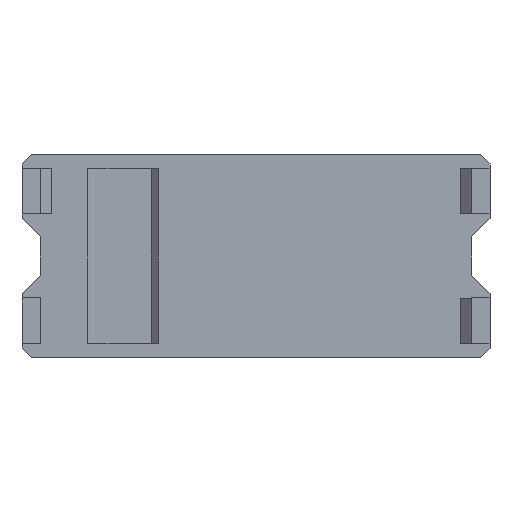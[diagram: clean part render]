
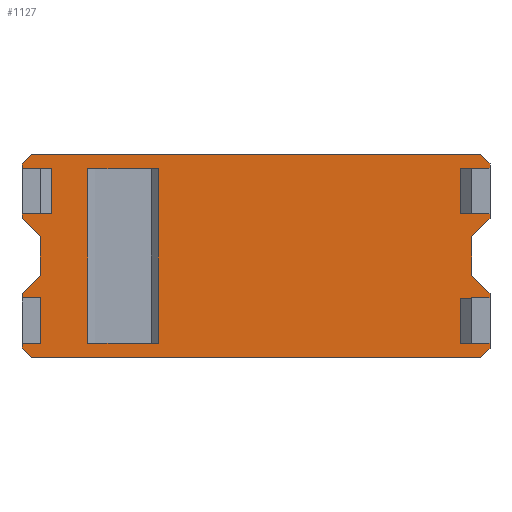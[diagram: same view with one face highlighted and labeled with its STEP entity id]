
A CAD part, top view. The second image highlights one B-rep face of the part: STEP entity #1127.
In plain terms, the highlighted planar face has unit normal (0, 0, 1).
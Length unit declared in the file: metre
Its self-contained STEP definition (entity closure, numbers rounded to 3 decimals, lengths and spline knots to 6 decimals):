
#27=ORIENTED_EDGE('',*,*,#353,.F.);
#28=ORIENTED_EDGE('',*,*,#354,.T.);
#29=ORIENTED_EDGE('',*,*,#355,.T.);
#30=ORIENTED_EDGE('',*,*,#356,.F.);
#31=ORIENTED_EDGE('',*,*,#357,.F.);
#32=ORIENTED_EDGE('',*,*,#358,.T.);
#33=ORIENTED_EDGE('',*,*,#359,.T.);
#34=ORIENTED_EDGE('',*,*,#360,.T.);
#35=ORIENTED_EDGE('',*,*,#361,.T.);
#36=ORIENTED_EDGE('',*,*,#362,.T.);
#37=ORIENTED_EDGE('',*,*,#363,.T.);
#38=ORIENTED_EDGE('',*,*,#364,.F.);
#39=ORIENTED_EDGE('',*,*,#365,.T.);
#40=ORIENTED_EDGE('',*,*,#366,.T.);
#41=ORIENTED_EDGE('',*,*,#367,.F.);
#42=ORIENTED_EDGE('',*,*,#368,.F.);
#43=ORIENTED_EDGE('',*,*,#369,.T.);
#44=ORIENTED_EDGE('',*,*,#370,.T.);
#45=ORIENTED_EDGE('',*,*,#371,.T.);
#46=ORIENTED_EDGE('',*,*,#372,.F.);
#47=ORIENTED_EDGE('',*,*,#373,.F.);
#48=ORIENTED_EDGE('',*,*,#374,.T.);
#49=ORIENTED_EDGE('',*,*,#375,.T.);
#50=ORIENTED_EDGE('',*,*,#376,.F.);
#51=ORIENTED_EDGE('',*,*,#377,.T.);
#52=ORIENTED_EDGE('',*,*,#378,.F.);
#53=ORIENTED_EDGE('',*,*,#379,.T.);
#54=ORIENTED_EDGE('',*,*,#380,.T.);
#55=ORIENTED_EDGE('',*,*,#381,.F.);
#56=ORIENTED_EDGE('',*,*,#382,.T.);
#57=ORIENTED_EDGE('',*,*,#383,.T.);
#58=ORIENTED_EDGE('',*,*,#384,.T.);
#59=ORIENTED_EDGE('',*,*,#385,.T.);
#60=ORIENTED_EDGE('',*,*,#386,.F.);
#61=ORIENTED_EDGE('',*,*,#387,.T.);
#62=ORIENTED_EDGE('',*,*,#388,.T.);
#353=EDGE_CURVE('',#516,#517,#621,.T.);
#354=EDGE_CURVE('',#516,#518,#622,.T.);
#355=EDGE_CURVE('',#518,#519,#623,.T.);
#356=EDGE_CURVE('',#517,#519,#624,.T.);
#357=EDGE_CURVE('',#520,#521,#625,.T.);
#358=EDGE_CURVE('',#520,#522,#626,.T.);
#359=EDGE_CURVE('',#522,#523,#627,.T.);
#360=EDGE_CURVE('',#523,#524,#628,.T.);
#361=EDGE_CURVE('',#524,#525,#629,.F.);
#362=EDGE_CURVE('',#525,#526,#630,.T.);
#363=EDGE_CURVE('',#526,#527,#631,.T.);
#364=EDGE_CURVE('',#528,#527,#632,.T.);
#365=EDGE_CURVE('',#528,#529,#633,.T.);
#366=EDGE_CURVE('',#529,#530,#634,.T.);
#367=EDGE_CURVE('',#531,#530,#635,.T.);
#368=EDGE_CURVE('',#532,#531,#636,.T.);
#369=EDGE_CURVE('',#532,#533,#637,.F.);
#370=EDGE_CURVE('',#533,#534,#638,.T.);
#371=EDGE_CURVE('',#534,#535,#639,.F.);
#372=EDGE_CURVE('',#536,#535,#640,.T.);
#373=EDGE_CURVE('',#537,#536,#641,.T.);
#374=EDGE_CURVE('',#537,#538,#642,.T.);
#375=EDGE_CURVE('',#538,#539,#643,.T.);
#376=EDGE_CURVE('',#540,#539,#644,.T.);
#377=EDGE_CURVE('',#540,#541,#645,.T.);
#378=EDGE_CURVE('',#542,#541,#646,.T.);
#379=EDGE_CURVE('',#542,#543,#647,.T.);
#380=EDGE_CURVE('',#543,#544,#648,.T.);
#381=EDGE_CURVE('',#545,#544,#649,.T.);
#382=EDGE_CURVE('',#545,#546,#650,.T.);
#383=EDGE_CURVE('',#546,#547,#651,.T.);
#384=EDGE_CURVE('',#547,#548,#652,.T.);
#385=EDGE_CURVE('',#548,#549,#653,.F.);
#386=EDGE_CURVE('',#550,#549,#654,.T.);
#387=EDGE_CURVE('',#550,#551,#655,.T.);
#388=EDGE_CURVE('',#551,#521,#656,.T.);
#516=VERTEX_POINT('',#1578);
#517=VERTEX_POINT('',#1579);
#518=VERTEX_POINT('',#1581);
#519=VERTEX_POINT('',#1583);
#520=VERTEX_POINT('',#1586);
#521=VERTEX_POINT('',#1587);
#522=VERTEX_POINT('',#1589);
#523=VERTEX_POINT('',#1591);
#524=VERTEX_POINT('',#1593);
#525=VERTEX_POINT('',#1595);
#526=VERTEX_POINT('',#1597);
#527=VERTEX_POINT('',#1599);
#528=VERTEX_POINT('',#1601);
#529=VERTEX_POINT('',#1603);
#530=VERTEX_POINT('',#1605);
#531=VERTEX_POINT('',#1607);
#532=VERTEX_POINT('',#1609);
#533=VERTEX_POINT('',#1611);
#534=VERTEX_POINT('',#1613);
#535=VERTEX_POINT('',#1615);
#536=VERTEX_POINT('',#1617);
#537=VERTEX_POINT('',#1619);
#538=VERTEX_POINT('',#1621);
#539=VERTEX_POINT('',#1623);
#540=VERTEX_POINT('',#1625);
#541=VERTEX_POINT('',#1627);
#542=VERTEX_POINT('',#1629);
#543=VERTEX_POINT('',#1631);
#544=VERTEX_POINT('',#1633);
#545=VERTEX_POINT('',#1635);
#546=VERTEX_POINT('',#1637);
#547=VERTEX_POINT('',#1639);
#548=VERTEX_POINT('',#1641);
#549=VERTEX_POINT('',#1643);
#550=VERTEX_POINT('',#1645);
#551=VERTEX_POINT('',#1647);
#621=LINE('',#1577,#773);
#622=LINE('',#1580,#774);
#623=LINE('',#1582,#775);
#624=LINE('',#1584,#776);
#625=LINE('',#1585,#777);
#626=LINE('',#1588,#778);
#627=LINE('',#1590,#779);
#628=LINE('',#1592,#780);
#629=LINE('',#1594,#781);
#630=LINE('',#1596,#782);
#631=LINE('',#1598,#783);
#632=LINE('',#1600,#784);
#633=LINE('',#1602,#785);
#634=LINE('',#1604,#786);
#635=LINE('',#1606,#787);
#636=LINE('',#1608,#788);
#637=LINE('',#1610,#789);
#638=LINE('',#1612,#790);
#639=LINE('',#1614,#791);
#640=LINE('',#1616,#792);
#641=LINE('',#1618,#793);
#642=LINE('',#1620,#794);
#643=LINE('',#1622,#795);
#644=LINE('',#1624,#796);
#645=LINE('',#1626,#797);
#646=LINE('',#1628,#798);
#647=LINE('',#1630,#799);
#648=LINE('',#1632,#800);
#649=LINE('',#1634,#801);
#650=LINE('',#1636,#802);
#651=LINE('',#1638,#803);
#652=LINE('',#1640,#804);
#653=LINE('',#1642,#805);
#654=LINE('',#1644,#806);
#655=LINE('',#1646,#807);
#656=LINE('',#1648,#808);
#773=VECTOR('',#1279,1.);
#774=VECTOR('',#1280,1.);
#775=VECTOR('',#1281,1.);
#776=VECTOR('',#1282,1.);
#777=VECTOR('',#1283,1.);
#778=VECTOR('',#1284,1.);
#779=VECTOR('',#1285,1.);
#780=VECTOR('',#1286,1.);
#781=VECTOR('',#1287,1.);
#782=VECTOR('',#1288,1.);
#783=VECTOR('',#1289,1.);
#784=VECTOR('',#1290,1.);
#785=VECTOR('',#1291,1.);
#786=VECTOR('',#1292,1.);
#787=VECTOR('',#1293,1.);
#788=VECTOR('',#1294,1.);
#789=VECTOR('',#1295,1.);
#790=VECTOR('',#1296,1.);
#791=VECTOR('',#1297,1.);
#792=VECTOR('',#1298,1.);
#793=VECTOR('',#1299,1.);
#794=VECTOR('',#1300,1.);
#795=VECTOR('',#1301,1.);
#796=VECTOR('',#1302,1.);
#797=VECTOR('',#1303,1.);
#798=VECTOR('',#1304,1.);
#799=VECTOR('',#1305,1.);
#800=VECTOR('',#1306,1.);
#801=VECTOR('',#1307,1.);
#802=VECTOR('',#1308,1.);
#803=VECTOR('',#1309,1.);
#804=VECTOR('',#1310,1.);
#805=VECTOR('',#1311,1.);
#806=VECTOR('',#1312,1.);
#807=VECTOR('',#1313,1.);
#808=VECTOR('',#1314,1.);
#925=EDGE_LOOP('',(#27,#28,#29,#30));
#926=EDGE_LOOP('',(#31,#32,#33,#34,#35,#36,#37,#38,#39,#40,#41,#42,#43,
#44,#45,#46,#47,#48,#49,#50,#51,#52,#53,#54,#55,#56,#57,#58,#59,#60,#61,
#62));
#997=FACE_BOUND('',#925,.T.);
#998=FACE_BOUND('',#926,.T.);
#1069=PLANE('',#1202);
#1127=ADVANCED_FACE('',(#997,#998),#1069,.F.);
#1202=AXIS2_PLACEMENT_3D('',#1576,#1277,#1278);
#1277=DIRECTION('',(0.,0.,-1.));
#1278=DIRECTION('',(1.,0.,0.));
#1279=DIRECTION('',(0.,1.,0.));
#1280=DIRECTION('',(-1.,0.,0.));
#1281=DIRECTION('',(0.,1.,0.));
#1282=DIRECTION('',(-1.,0.,0.));
#1283=DIRECTION('',(1.,0.,0.));
#1284=DIRECTION('',(0.,1.,0.));
#1285=DIRECTION('',(1.,0.,0.));
#1286=DIRECTION('',(0.,1.,0.));
#1287=DIRECTION('',(0.707,-0.707,0.));
#1288=DIRECTION('',(-1.,0.,0.));
#1289=DIRECTION('',(-0.707,-0.707,0.));
#1290=DIRECTION('',(0.,1.,0.));
#1291=DIRECTION('',(1.,0.,0.));
#1292=DIRECTION('',(0.,-1.,0.));
#1293=DIRECTION('',(1.,0.,0.));
#1294=DIRECTION('',(0.,1.,0.));
#1295=DIRECTION('',(-0.707,0.707,0.));
#1296=DIRECTION('',(0.,-1.,0.));
#1297=DIRECTION('',(0.707,0.707,0.));
#1298=DIRECTION('',(0.,1.,0.));
#1299=DIRECTION('',(-1.,0.,0.));
#1300=DIRECTION('',(0.,-1.,0.));
#1301=DIRECTION('',(-1.,0.,0.));
#1302=DIRECTION('',(0.,1.,0.));
#1303=DIRECTION('',(0.707,-0.707,0.));
#1304=DIRECTION('',(-1.,0.,0.));
#1305=DIRECTION('',(0.707,0.707,0.));
#1306=DIRECTION('',(0.,1.,0.));
#1307=DIRECTION('',(1.,0.,0.));
#1308=DIRECTION('',(0.,1.,0.));
#1309=DIRECTION('',(1.,0.,0.));
#1310=DIRECTION('',(0.,1.,0.));
#1311=DIRECTION('',(0.707,-0.707,0.));
#1312=DIRECTION('',(0.,-1.,0.));
#1313=DIRECTION('',(0.707,0.707,0.));
#1314=DIRECTION('',(0.,1.,0.));
#1576=CARTESIAN_POINT('',(0.19685,0.,-0.06096));
#1577=CARTESIAN_POINT('',(0.14224,-0.048895,-0.06096));
#1578=CARTESIAN_POINT('',(0.14224,-0.048895,-0.06096));
#1579=CARTESIAN_POINT('',(0.14224,0.048895,-0.06096));
#1580=CARTESIAN_POINT('',(0.122555,-0.048895,-0.06096));
#1581=CARTESIAN_POINT('',(0.10287,-0.048895,-0.06096));
#1582=CARTESIAN_POINT('',(0.10287,-0.048895,-0.06096));
#1583=CARTESIAN_POINT('',(0.10287,0.048895,-0.06096));
#1584=CARTESIAN_POINT('',(0.122555,0.048895,-0.06096));
#1585=CARTESIAN_POINT('',(0.32258,0.023495,-0.06096));
#1586=CARTESIAN_POINT('',(0.31115,0.023495,-0.06096));
#1587=CARTESIAN_POINT('',(0.32766,0.023495,-0.06096));
#1588=CARTESIAN_POINT('',(0.31115,0.048895,-0.06096));
#1589=CARTESIAN_POINT('',(0.31115,0.048895,-0.06096));
#1590=CARTESIAN_POINT('',(0.32258,0.048895,-0.06096));
#1591=CARTESIAN_POINT('',(0.32766,0.048895,-0.06096));
#1592=CARTESIAN_POINT('',(0.32766,0.036195,-0.06096));
#1593=CARTESIAN_POINT('',(0.32766,0.051435,-0.06096));
#1594=CARTESIAN_POINT('',(0.287973,0.091123,-0.06096));
#1595=CARTESIAN_POINT('',(0.32258,0.056515,-0.06096));
#1596=CARTESIAN_POINT('',(0.19685,0.056515,-0.06096));
#1597=CARTESIAN_POINT('',(0.07112,0.056515,-0.06096));
#1598=CARTESIAN_POINT('',(0.105728,0.091123,-0.06096));
#1599=CARTESIAN_POINT('',(0.06604,0.051435,-0.06096));
#1600=CARTESIAN_POINT('',(0.06604,0.036195,-0.06096));
#1601=CARTESIAN_POINT('',(0.06604,0.048895,-0.06096));
#1602=CARTESIAN_POINT('',(0.07112,0.048895,-0.06096));
#1603=CARTESIAN_POINT('',(0.08255,0.048895,-0.06096));
#1604=CARTESIAN_POINT('',(0.08255,0.,-0.06096));
#1605=CARTESIAN_POINT('',(0.08255,0.023495,-0.06096));
#1606=CARTESIAN_POINT('',(0.07112,0.023495,-0.06096));
#1607=CARTESIAN_POINT('',(0.06604,0.023495,-0.06096));
#1608=CARTESIAN_POINT('',(0.06604,0.036195,-0.06096));
#1609=CARTESIAN_POINT('',(0.06604,0.020955,-0.06096));
#1610=CARTESIAN_POINT('',(0.141923,-0.054928,-0.06096));
#1611=CARTESIAN_POINT('',(0.0762,0.010795,-0.06096));
#1612=CARTESIAN_POINT('',(0.0762,0.,-0.06096));
#1613=CARTESIAN_POINT('',(0.0762,-0.010795,-0.06096));
#1614=CARTESIAN_POINT('',(0.141923,0.054928,-0.06096));
#1615=CARTESIAN_POINT('',(0.06604,-0.020955,-0.06096));
#1616=CARTESIAN_POINT('',(0.06604,-0.036195,-0.06096));
#1617=CARTESIAN_POINT('',(0.06604,-0.023495,-0.06096));
#1618=CARTESIAN_POINT('',(0.07112,-0.023495,-0.06096));
#1619=CARTESIAN_POINT('',(0.0762,-0.023495,-0.06096));
#1620=CARTESIAN_POINT('',(0.0762,0.,-0.06096));
#1621=CARTESIAN_POINT('',(0.0762,-0.048895,-0.06096));
#1622=CARTESIAN_POINT('',(0.07112,-0.048895,-0.06096));
#1623=CARTESIAN_POINT('',(0.06604,-0.048895,-0.06096));
#1624=CARTESIAN_POINT('',(0.06604,-0.036195,-0.06096));
#1625=CARTESIAN_POINT('',(0.06604,-0.051435,-0.06096));
#1626=CARTESIAN_POINT('',(0.105728,-0.091123,-0.06096));
#1627=CARTESIAN_POINT('',(0.07112,-0.056515,-0.06096));
#1628=CARTESIAN_POINT('',(0.19685,-0.056515,-0.06096));
#1629=CARTESIAN_POINT('',(0.32258,-0.056515,-0.06096));
#1630=CARTESIAN_POINT('',(0.287973,-0.091123,-0.06096));
#1631=CARTESIAN_POINT('',(0.32766,-0.051435,-0.06096));
#1632=CARTESIAN_POINT('',(0.32766,-0.036195,-0.06096));
#1633=CARTESIAN_POINT('',(0.32766,-0.048895,-0.06096));
#1634=CARTESIAN_POINT('',(0.32258,-0.048895,-0.06096));
#1635=CARTESIAN_POINT('',(0.31115,-0.048895,-0.06096));
#1636=CARTESIAN_POINT('',(0.31115,-0.023495,-0.06096));
#1637=CARTESIAN_POINT('',(0.31115,-0.023495,-0.06096));
#1638=CARTESIAN_POINT('',(0.32258,-0.023495,-0.06096));
#1639=CARTESIAN_POINT('',(0.32766,-0.023495,-0.06096));
#1640=CARTESIAN_POINT('',(0.32766,-0.036195,-0.06096));
#1641=CARTESIAN_POINT('',(0.32766,-0.020955,-0.06096));
#1642=CARTESIAN_POINT('',(0.251778,0.054928,-0.06096));
#1643=CARTESIAN_POINT('',(0.3175,-0.010795,-0.06096));
#1644=CARTESIAN_POINT('',(0.3175,0.,-0.06096));
#1645=CARTESIAN_POINT('',(0.3175,0.010795,-0.06096));
#1646=CARTESIAN_POINT('',(0.251778,-0.054928,-0.06096));
#1647=CARTESIAN_POINT('',(0.32766,0.020955,-0.06096));
#1648=CARTESIAN_POINT('',(0.32766,0.036195,-0.06096));
